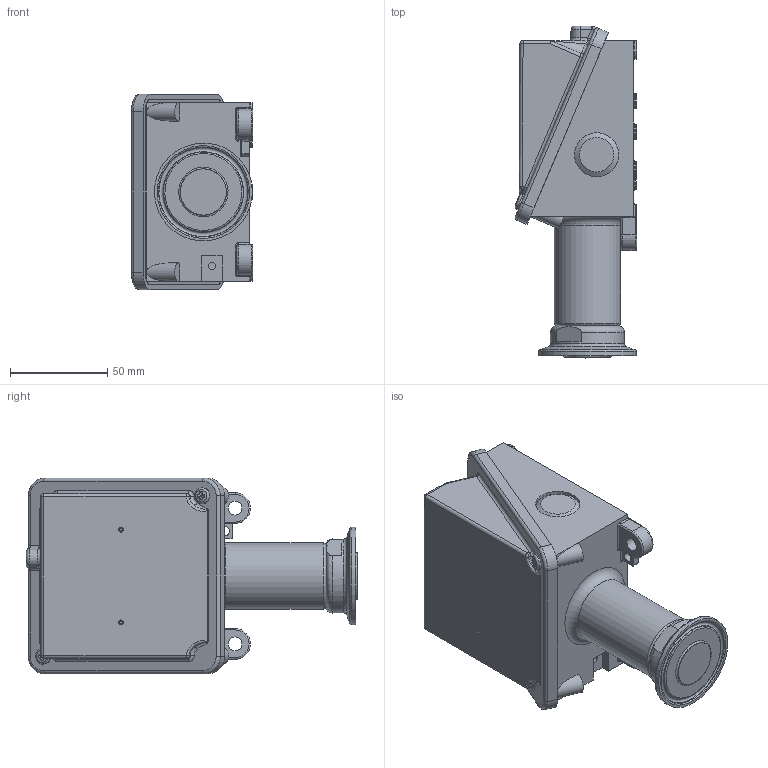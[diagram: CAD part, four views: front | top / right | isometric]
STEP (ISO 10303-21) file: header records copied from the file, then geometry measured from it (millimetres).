
FILE_DESCRIPTION (( 'STEP AP214' ), '1' );
FILE_NAME ('H100-565_567_V2.STEP', '2025-02-28T13:56:18', ( '' ), ( '' ), 'SwSTEP 2.0', 'SolidWorks 2023', '' );
FILE_SCHEMA (( 'AUTOMOTIVE_DESIGN' ));
Length unit declared in the file: inch
Products named in the file (1): H100-565_567_V2
Bounding box: 62.62 x 170.89 x 100.84 mm (x, y, z)
Surface area: 58057.6 mm2 (no closed solid volume)
Topology: 0 solids, 7 shells, 257 faces, 633 edges, 382 vertices
Faces by surface type: cylinder 89, plane 83, torus 49, bspline 18, sphere 10, cone 8
Full cylindrical faces by diameter (mm): 1.321 x2, 3.797 x1, 4.763 x1, 7.112 x2, 7.937 x2, 7.938 x2, 8.179 x2, 9.525 x2, 22.733 x2, 23.8 x2, 34.131 x1, 38.1 x1, 50.394 x1
Entity records: 7875 total; most frequent: CARTESIAN_POINT 2140, DIRECTION 1254, ORIENTED_EDGE 1072, EDGE_CURVE 568, AXIS2_PLACEMENT_3D 513, VERTEX_POINT 375, EDGE_LOOP 334, FACE_OUTER_BOUND 301
